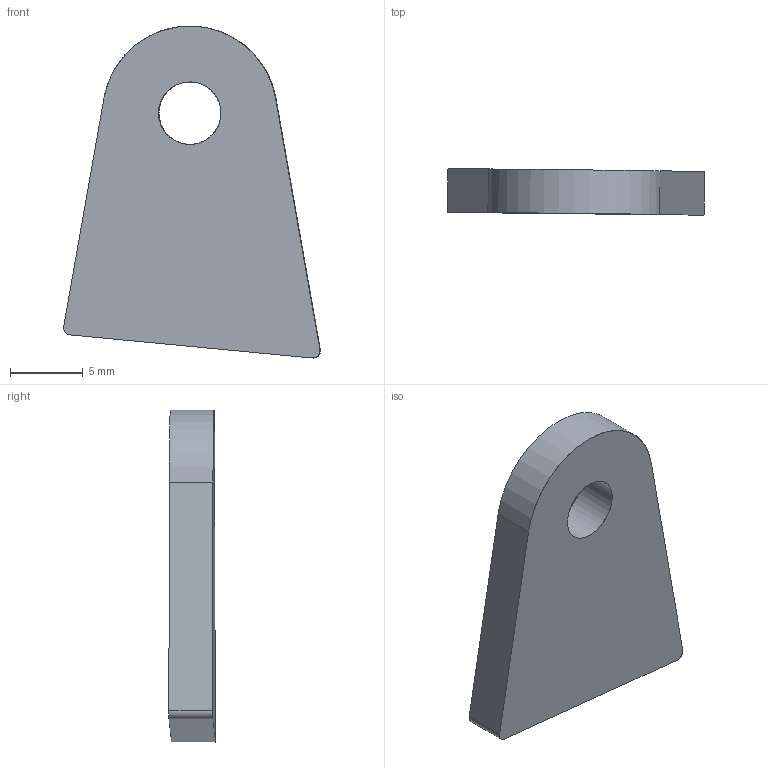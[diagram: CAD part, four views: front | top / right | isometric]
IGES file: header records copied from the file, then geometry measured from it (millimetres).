
Start section: START RECORD GO HERE.
Global section: file name: EN_04006 (chape 1).igs; native system: IBM CATIA IGES - CATIA Version 5 Release 19 ; preprocessor: CATIA Version 5 Release 19 ; author: Martin Kawczynski; organization: DESKTOP-UDLM1FC; date: 20200115.111236; units: millimetre
Bounding box: 17.69 x 3.19 x 22.86 mm (x, y, z)
Surface area: 812.9 mm2 (no closed solid volume)
Topology: 0 solids, 0 shells, 10 faces, 48 edges, 48 vertices
Faces by surface type: revolution 5, plane 4, extrusion 1
